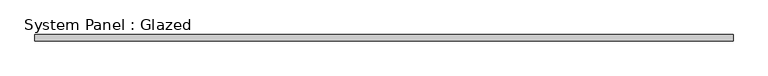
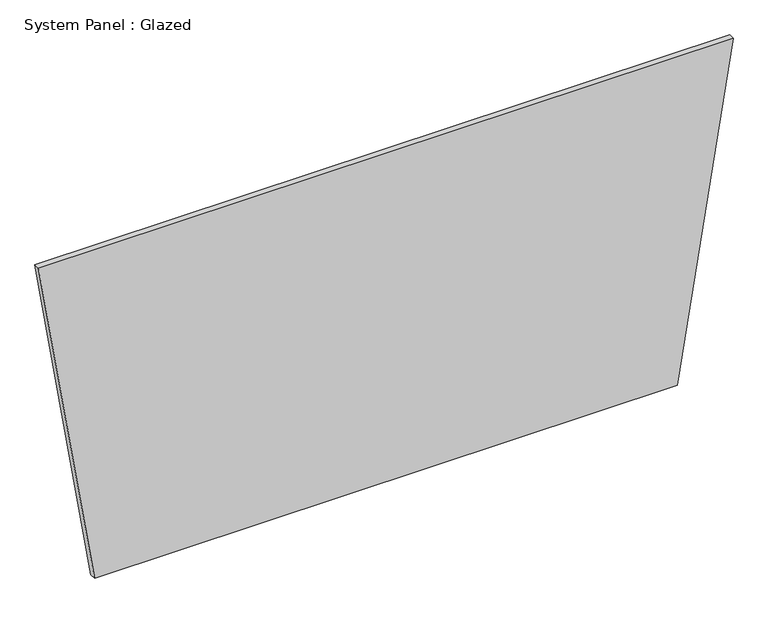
"""IFC4 building model written with IfcOpenShell, lengths in millimetres: plate geometry, System Panel : Glazed."""

from ifc_helpers import new_model, si_unit, frame, origin, place, context, project, spatial, polyline, outline, extrude, source, transform, mapped, element, save


def system_panel_glazed_7ce28d7e(model_context):
    return source(origin(), model_context, "Body", "SweptSolid", [
        extrude(outline(polyline([(0.0, -1208.9867024), (0.0, 1208.9867024), (1441.0018398, 1441.7328764), (1441.0018398, -1441.7328764), (0.0, -1208.9867024)])), frame((0.0, -44.45, 0.0), z_axis=(0.0, 1.0, 0.0), x_axis=(0.0, 0.0, 1.0)), (0.0, 0.0, 1.0), 25.4),
    ])


if __name__ == "__main__":
    model = new_model("IFC4")
    model_context = context("Model", 3, world=origin())
    ifc_project = project(units=[si_unit("LENGTHUNIT", "METRE", prefix="MILLI")], contexts=[model_context])
    site = spatial("IfcSite", under=ifc_project)
    building = spatial("IfcBuilding", under=site)
    placement = place(None, origin())
    system_panel_glazed_shape = system_panel_glazed_7ce28d7e(model_context)
    element("IfcPlate", 1, ObjectType="System Panel : Glazed", at=placement, inside=building, context=model_context, shape_type="MappedRepresentation", body=[
        mapped(system_panel_glazed_shape, transform((0.0, 0.0, 0.0), x_axis=(1.0, 0.0, 0.0), y_axis=(0.0, 1.0, 0.0), z_axis=(0.0, 0.0, 1.0))),
    ])
    save(model, "model.ifc")
